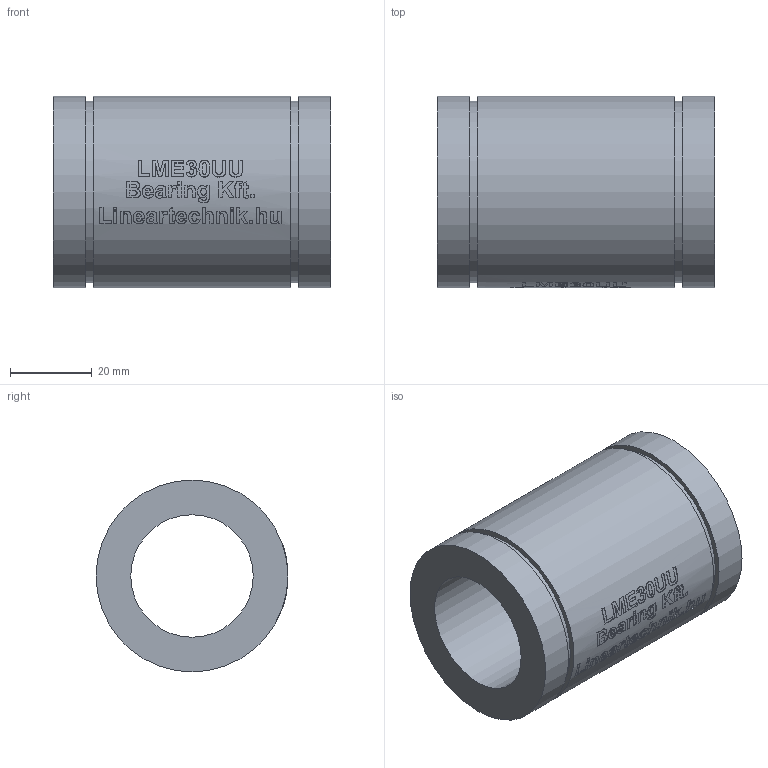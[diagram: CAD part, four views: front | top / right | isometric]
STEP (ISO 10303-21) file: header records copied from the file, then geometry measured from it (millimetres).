
FILE_DESCRIPTION(/* description */ (''),/* implementation_level */ '2;1');
FILE_NAME(/* name */ 'LME30UU',/* time_stamp */ '2019-05-17T10:33:23+02:00',/* author */ ('VĂ©gh MĂˇtĂ©'),/* organization */ ('Bearing Kft'),/* preprocessor_version */ 'ST-DEVELOPER v16.7',/* originating_system */ 'DEX',/* authorisation */ $);
FILE_SCHEMA (('AUTOMOTIVE_DESIGN {1 0 10303 214 3 1 1}'));
Length unit declared in the file: millimetre
Products named in the file (1): LME30UU
Bounding box: 68 x 47 x 47 mm (x, y, z)
Volume: 69224.6 mm3; surface area: 19247.8 mm2
Topology: 1 solids, 1 shells, 312 faces, 782 edges, 522 vertices
Faces by surface type: plane 163, bspline 97, cylinder 52
Full cylindrical faces by diameter (mm): 30 x1, 44.5 x2, 47 x3
Entity records: 19976 total; most frequent: CARTESIAN_POINT 13024, ORIENTED_EDGE 1542, DIRECTION 1154, EDGE_CURVE 771, VERTEX_POINT 520, LINE 426, VECTOR 426, EDGE_LOOP 373
